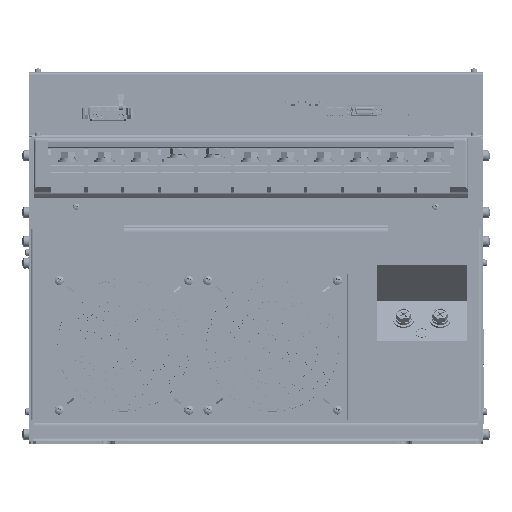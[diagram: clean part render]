
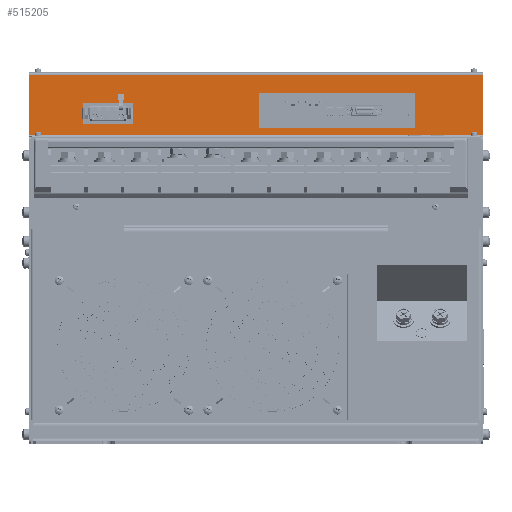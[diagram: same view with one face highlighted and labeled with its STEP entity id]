
A CAD part, front view. The second image highlights one B-rep face of the part: STEP entity #515205.
In plain terms, the highlighted planar face has unit normal (0, -1, 0).
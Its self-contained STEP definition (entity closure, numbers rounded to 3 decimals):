
#14829 = VECTOR ( 'NONE', #135715, 1000. ) ;
#14903 = VERTEX_POINT ( 'NONE', #379493 ) ;
#19933 = VERTEX_POINT ( 'NONE', #413891 ) ;
#21566 = ORIENTED_EDGE ( 'NONE', *, *, #413194, .F. ) ;
#25715 = PLANE ( 'NONE',  #46341 ) ;
#28886 = EDGE_CURVE ( 'NONE', #19933, #361618, #198151, .T. ) ;
#29281 = VERTEX_POINT ( 'NONE', #140562 ) ;
#43389 = ORIENTED_EDGE ( 'NONE', *, *, #611373, .F. ) ;
#45201 = ORIENTED_EDGE ( 'NONE', *, *, #285426, .F. ) ;
#46341 = AXIS2_PLACEMENT_3D ( 'NONE', #506249, #121400, #310564 ) ;
#52446 = VECTOR ( 'NONE', #588533, 1000. ) ;
#71652 = VECTOR ( 'NONE', #340783, 1000. ) ;
#84580 = CARTESIAN_POINT ( 'NONE',  ( -151.6, 74.5, 277.6 ) ) ;
#88414 = FACE_BOUND ( 'NONE', #475697, .T. ) ;
#103300 = FACE_BOUND ( 'NONE', #370385, .T. ) ;
#104452 = VERTEX_POINT ( 'NONE', #575431 ) ;
#107029 = LINE ( 'NONE', #281383, #397024 ) ;
#107765 = VERTEX_POINT ( 'NONE', #606363 ) ;
#121083 = DIRECTION ( 'NONE',  ( 0., 0., -1. ) ) ;
#121400 = DIRECTION ( 'NONE',  ( 0., -1., 0. ) ) ;
#125973 = FACE_OUTER_BOUND ( 'NONE', #382988, .T. ) ;
#128372 = VECTOR ( 'NONE', #281842, 1000. ) ;
#131626 = VECTOR ( 'NONE', #555948, 1000. ) ;
#131651 = ORIENTED_EDGE ( 'NONE', *, *, #323682, .F. ) ;
#135451 = CARTESIAN_POINT ( 'NONE',  ( -151.6, 74.5, 277.6 ) ) ;
#135715 = DIRECTION ( 'NONE',  ( 0., 0., 1. ) ) ;
#136457 = CARTESIAN_POINT ( 'NONE',  ( -198.6, 74.5, 302.4 ) ) ;
#139137 = DIRECTION ( 'NONE',  ( -1., 0., 0. ) ) ;
#140562 = CARTESIAN_POINT ( 'NONE',  ( 198.6, 74.5, 250. ) ) ;
#177755 = EDGE_CURVE ( 'NONE', #315349, #104452, #438196, .T. ) ;
#179063 = LINE ( 'NONE', #550968, #52446 ) ;
#181510 = CARTESIAN_POINT ( 'NONE',  ( 139.3, 74.5, 286.2 ) ) ;
#192326 = ORIENTED_EDGE ( 'NONE', *, *, #28886, .F. ) ;
#198151 = LINE ( 'NONE', #432501, #71652 ) ;
#217727 = CARTESIAN_POINT ( 'NONE',  ( 2.3, 74.5, 256.2 ) ) ;
#223848 = DIRECTION ( 'NONE',  ( 0., 0., -1. ) ) ;
#228258 = LINE ( 'NONE', #417009, #340027 ) ;
#233381 = VERTEX_POINT ( 'NONE', #369759 ) ;
#260841 = VERTEX_POINT ( 'NONE', #455066 ) ;
#262602 = CARTESIAN_POINT ( 'NONE',  ( -151.6, 74.5, 259.6 ) ) ;
#280093 = EDGE_CURVE ( 'NONE', #361618, #233381, #550441, .T. ) ;
#280693 = LINE ( 'NONE', #262602, #131626 ) ;
#281383 = CARTESIAN_POINT ( 'NONE',  ( 198.6, 74.5, 250. ) ) ;
#281842 = DIRECTION ( 'NONE',  ( 1., 0., 0. ) ) ;
#283713 = CARTESIAN_POINT ( 'NONE',  ( 139.3, 74.5, 286.2 ) ) ;
#285426 = EDGE_CURVE ( 'NONE', #14903, #19933, #228258, .T. ) ;
#288517 = LINE ( 'NONE', #496283, #526894 ) ;
#296981 = VERTEX_POINT ( 'NONE', #136457 ) ;
#310564 = DIRECTION ( 'NONE',  ( -1., 0., 0. ) ) ;
#315349 = VERTEX_POINT ( 'NONE', #283713 ) ;
#319749 = LINE ( 'NONE', #181510, #14829 ) ;
#320262 = CARTESIAN_POINT ( 'NONE',  ( -198.6, 74.5, 302.4 ) ) ;
#321725 = ORIENTED_EDGE ( 'NONE', *, *, #549833, .F. ) ;
#323682 = EDGE_CURVE ( 'NONE', #442203, #260841, #288517, .T. ) ;
#331230 = LINE ( 'NONE', #454062, #569622 ) ;
#333324 = DIRECTION ( 'NONE',  ( -1., 0., 0. ) ) ;
#340027 = VECTOR ( 'NONE', #464943, 1000. ) ;
#340783 = DIRECTION ( 'NONE',  ( -1., 0., 0. ) ) ;
#361618 = VERTEX_POINT ( 'NONE', #135451 ) ;
#365288 = CARTESIAN_POINT ( 'NONE',  ( 198.6, 74.5, 302.4 ) ) ;
#369759 = CARTESIAN_POINT ( 'NONE',  ( -151.6, 74.5, 259.6 ) ) ;
#370385 = EDGE_LOOP ( 'NONE', ( #437694, #192326, #45201, #470752 ) ) ;
#379493 = CARTESIAN_POINT ( 'NONE',  ( -107.6, 74.5, 259.6 ) ) ;
#382988 = EDGE_LOOP ( 'NONE', ( #43389, #391972, #21566, #321725 ) ) ;
#391972 = ORIENTED_EDGE ( 'NONE', *, *, #459631, .F. ) ;
#397024 = VECTOR ( 'NONE', #333324, 1000. ) ;
#402466 = DIRECTION ( 'NONE',  ( 1., 0., 0. ) ) ;
#413194 = EDGE_CURVE ( 'NONE', #107765, #29281, #331230, .T. ) ;
#413891 = CARTESIAN_POINT ( 'NONE',  ( -107.6, 74.5, 277.6 ) ) ;
#417009 = CARTESIAN_POINT ( 'NONE',  ( -107.6, 74.5, 277.6 ) ) ;
#420215 = ORIENTED_EDGE ( 'NONE', *, *, #177755, .F. ) ;
#429450 = VERTEX_POINT ( 'NONE', #553172 ) ;
#430781 = EDGE_CURVE ( 'NONE', #104452, #442203, #179063, .T. ) ;
#431615 = VECTOR ( 'NONE', #223848, 1000. ) ;
#432501 = CARTESIAN_POINT ( 'NONE',  ( -151.6, 74.5, 277.6 ) ) ;
#437694 = ORIENTED_EDGE ( 'NONE', *, *, #280093, .F. ) ;
#438196 = LINE ( 'NONE', #459838, #519944 ) ;
#442203 = VERTEX_POINT ( 'NONE', #217727 ) ;
#454062 = CARTESIAN_POINT ( 'NONE',  ( 198.6, 74.5, 249. ) ) ;
#455066 = CARTESIAN_POINT ( 'NONE',  ( 139.3, 74.5, 256.2 ) ) ;
#459631 = EDGE_CURVE ( 'NONE', #29281, #429450, #107029, .T. ) ;
#459838 = CARTESIAN_POINT ( 'NONE',  ( 2.3, 74.5, 286.2 ) ) ;
#464943 = DIRECTION ( 'NONE',  ( 0., 0., 1. ) ) ;
#470752 = ORIENTED_EDGE ( 'NONE', *, *, #541135, .F. ) ;
#475697 = EDGE_LOOP ( 'NONE', ( #584563, #420215, #557965, #131651 ) ) ;
#496283 = CARTESIAN_POINT ( 'NONE',  ( 2.3, 74.5, 256.2 ) ) ;
#506249 = CARTESIAN_POINT ( 'NONE',  ( 0., 74.5, 249. ) ) ;
#515205 = ADVANCED_FACE ( 'NONE', ( #125973, #103300, #88414 ), #25715, .T. ) ;
#519944 = VECTOR ( 'NONE', #139137, 1000. ) ;
#523062 = LINE ( 'NONE', #365288, #128372 ) ;
#526894 = VECTOR ( 'NONE', #402466, 1000. ) ;
#541135 = EDGE_CURVE ( 'NONE', #233381, #14903, #280693, .T. ) ;
#549833 = EDGE_CURVE ( 'NONE', #296981, #107765, #523062, .T. ) ;
#550441 = LINE ( 'NONE', #84580, #431615 ) ;
#550968 = CARTESIAN_POINT ( 'NONE',  ( 2.3, 74.5, 286.2 ) ) ;
#553172 = CARTESIAN_POINT ( 'NONE',  ( -198.6, 74.5, 250. ) ) ;
#555948 = DIRECTION ( 'NONE',  ( 1., 0., 0. ) ) ;
#556504 = LINE ( 'NONE', #320262, #563712 ) ;
#557965 = ORIENTED_EDGE ( 'NONE', *, *, #608840, .F. ) ;
#563712 = VECTOR ( 'NONE', #607404, 1000. ) ;
#569622 = VECTOR ( 'NONE', #121083, 1000. ) ;
#575431 = CARTESIAN_POINT ( 'NONE',  ( 2.3, 74.5, 286.2 ) ) ;
#584563 = ORIENTED_EDGE ( 'NONE', *, *, #430781, .F. ) ;
#588533 = DIRECTION ( 'NONE',  ( 0., 0., -1. ) ) ;
#606363 = CARTESIAN_POINT ( 'NONE',  ( 198.6, 74.5, 302.4 ) ) ;
#607404 = DIRECTION ( 'NONE',  ( 0., 0., 1. ) ) ;
#608840 = EDGE_CURVE ( 'NONE', #260841, #315349, #319749, .T. ) ;
#611373 = EDGE_CURVE ( 'NONE', #429450, #296981, #556504, .T. ) ;
